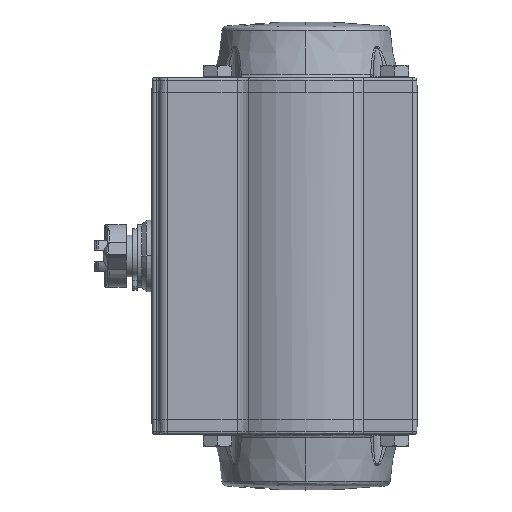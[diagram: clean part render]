
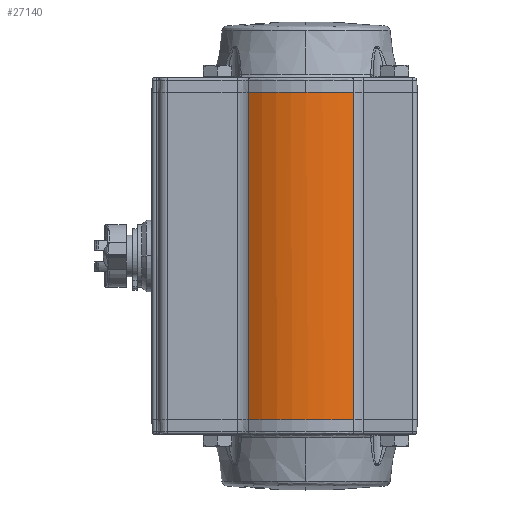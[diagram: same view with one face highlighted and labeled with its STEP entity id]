
A CAD part, left-side view. The second image highlights one B-rep face of the part: STEP entity #27140.
In plain terms, the highlighted cylindrical face has radius 35.5 mm (diameter 71 mm), a partial arc.
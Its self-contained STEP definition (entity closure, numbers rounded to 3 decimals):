
#1086 = CARTESIAN_POINT ( 'NONE',  ( -31.324, -16.706, 57.4 ) ) ;
#1126 = CARTESIAN_POINT ( 'NONE',  ( -35.5, 0., 57.4 ) ) ;
#7770 = AXIS2_PLACEMENT_3D ( 'NONE', #10426, #10428, #10429 ) ;
#7837 = AXIS2_PLACEMENT_3D ( 'NONE', #13279, #13281, #13282 ) ;
#10052 = FACE_OUTER_BOUND ( 'NONE', #59101, .T. ) ;
#10077 = CYLINDRICAL_SURFACE ( 'NONE', #65200, 35.5 ) ;
#10426 = CARTESIAN_POINT ( 'NONE',  ( 0., 0., -57.4 ) ) ;
#10428 = DIRECTION ( 'NONE',  ( 0., 0., 1. ) ) ;
#10429 = DIRECTION ( 'NONE',  ( 0., -1., 0. ) ) ;
#10482 = CARTESIAN_POINT ( 'NONE',  ( -29.235, 20.138, 0. ) ) ;
#10483 = DIRECTION ( 'NONE',  ( 0., 0., 1. ) ) ;
#10690 = CARTESIAN_POINT ( 'NONE',  ( -31.324, -16.706, 0. ) ) ;
#10692 = DIRECTION ( 'NONE',  ( 0., 0., -1. ) ) ;
#13279 = CARTESIAN_POINT ( 'NONE',  ( 0., 0., 57.4 ) ) ;
#13281 = DIRECTION ( 'NONE',  ( 0., 0., 1. ) ) ;
#13282 = DIRECTION ( 'NONE',  ( 1., 0., 0. ) ) ;
#17025 = ORIENTED_EDGE ( 'NONE', *, *, #90650, .F. ) ;
#17028 = ORIENTED_EDGE ( 'NONE', *, *, #61714, .F. ) ;
#17030 = ORIENTED_EDGE ( 'NONE', *, *, #61694, .T. ) ;
#17032 = ORIENTED_EDGE ( 'NONE', *, *, #61784, .F. ) ;
#17034 = ORIENTED_EDGE ( 'NONE', *, *, #73892, .F. ) ;
#19132 = CIRCLE ( 'NONE', #7837, 35.5 ) ;
#25372 = VERTEX_POINT ( 'NONE', #41025 ) ;
#25517 = VERTEX_POINT ( 'NONE', #40592 ) ;
#26540 = VERTEX_POINT ( 'NONE', #64519 ) ;
#27140 = ADVANCED_FACE ( 'NONE', ( #10052 ), #10077, .T. ) ;
#28417 = CIRCLE ( 'NONE', #76890, 35.5 ) ;
#34116 = VERTEX_POINT ( 'NONE', #1086 ) ;
#34156 = VERTEX_POINT ( 'NONE', #1126 ) ;
#40592 = CARTESIAN_POINT ( 'NONE',  ( -31.324, -16.706, -57.4 ) ) ;
#41025 = CARTESIAN_POINT ( 'NONE',  ( -29.235, 20.138, -57.4 ) ) ;
#43452 = CARTESIAN_POINT ( 'NONE',  ( 0., 0., 57.4 ) ) ;
#43456 = DIRECTION ( 'NONE',  ( 0., 0., 1. ) ) ;
#43458 = DIRECTION ( 'NONE',  ( 1., 0., 0. ) ) ;
#59101 = EDGE_LOOP ( 'NONE', ( #17025, #17028, #17030, #17032, #17034 ) ) ;
#61694 = EDGE_CURVE ( 'NONE', #25372, #25517, #81838, .T. ) ;
#61714 = EDGE_CURVE ( 'NONE', #25372, #26540, #81860, .T. ) ;
#61784 = EDGE_CURVE ( 'NONE', #34116, #25517, #81959, .T. ) ;
#64519 = CARTESIAN_POINT ( 'NONE',  ( -29.235, 20.138, 57.4 ) ) ;
#65200 = AXIS2_PLACEMENT_3D ( 'NONE', #91464, #90632, #90492 ) ;
#73892 = EDGE_CURVE ( 'NONE', #34156, #34116, #19132, .T. ) ;
#76890 = AXIS2_PLACEMENT_3D ( 'NONE', #43452, #43456, #43458 ) ;
#81838 = CIRCLE ( 'NONE', #7770, 35.5 ) ;
#81860 = LINE ( 'NONE', #10482, #81865 ) ;
#81865 = VECTOR ( 'NONE', #10483, 1000. ) ;
#81959 = LINE ( 'NONE', #10690, #81960 ) ;
#81960 = VECTOR ( 'NONE', #10692, 1000. ) ;
#90492 = DIRECTION ( 'NONE',  ( 0., -1., 0. ) ) ;
#90632 = DIRECTION ( 'NONE',  ( 0., 0., 1. ) ) ;
#90650 = EDGE_CURVE ( 'NONE', #26540, #34156, #28417, .T. ) ;
#91464 = CARTESIAN_POINT ( 'NONE',  ( 0., 0., -57.4 ) ) ;
